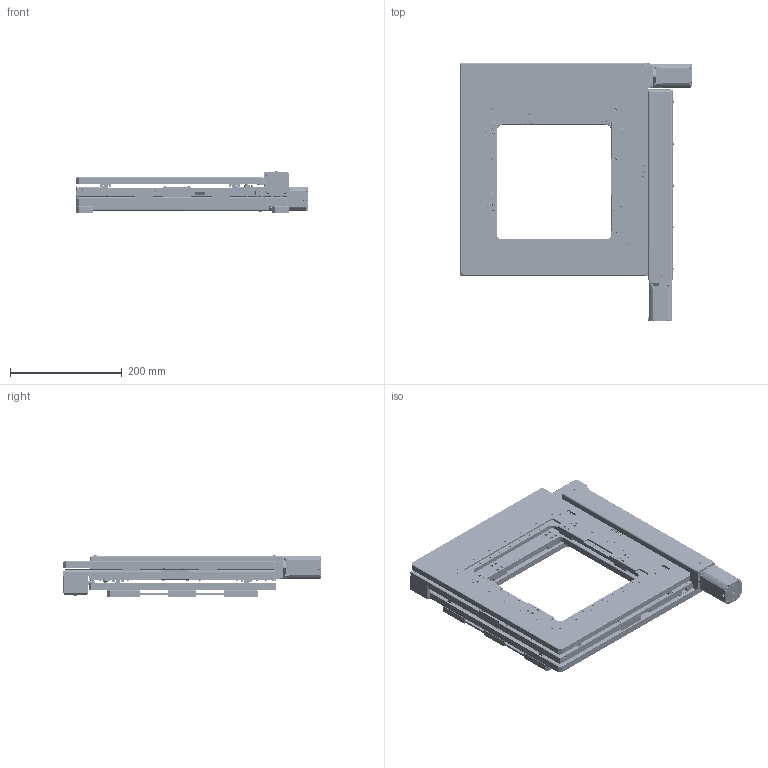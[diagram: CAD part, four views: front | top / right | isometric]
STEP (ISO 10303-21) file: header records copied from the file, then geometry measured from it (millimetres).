
FILE_DESCRIPTION(/* description */ (''),/* implementation_level */ '2;1');
FILE_NAME(/* name */ '8MTFUHV-200-V423 SB.stp',/* time_stamp */ '2024-10-04T15:49:30+03:00',/* author */ ('dsgn32'),/* organization */ (''),/* preprocessor_version */ 'ST-DEVELOPER v20',/* originating_system */ 'Autodesk Inventor 2024',/* authorisation */ '');
FILE_SCHEMA (('AUTOMOTIVE_DESIGN { 1 0 10303 214 3 1 1 }'));
Products named in the file (1): 8MTFUHV-200-V423 SB
Bounding box: 413.8 x 463.45 x 75.65 mm (x, y, z)
Volume: 4550260.1 mm3; surface area: 846331 mm2
Topology: 1 solids, 310 shells, 6028 faces, 14575 edges, 9439 vertices
Faces by surface type: plane 3519, cylinder 1495, cone 550, torus 410, sphere 46, bspline 8
Full cylindrical faces by diameter (mm): 1.567 x32, 2 x34, 2.013 x8, 2.459 x143, 2.5 x26, 2.9 x4, 3 x142, 3.1 x4, 3.2 x32, 3.242 x70, 3.4 x35, 3.5 x94, 3.8 x34, 4 x31, 4.2 x4, 4.5 x22, 5 x8, 5.5 x115, 5.6 x8, 6 x115, 7 x24, 8 x24, 9 x1, 10 x4, 12 x2, 16 x2, 16.91 x2, 22 x6, 25.85 x2, 26 x2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
Entity records: 179497 total; most frequent: CARTESIAN_POINT 32924, DIRECTION 29912, ORIENTED_EDGE 28558, EDGE_CURVE 14279, AXIS2_PLACEMENT_3D 10978, VERTEX_POINT 9439, LINE 7956, VECTOR 7956
